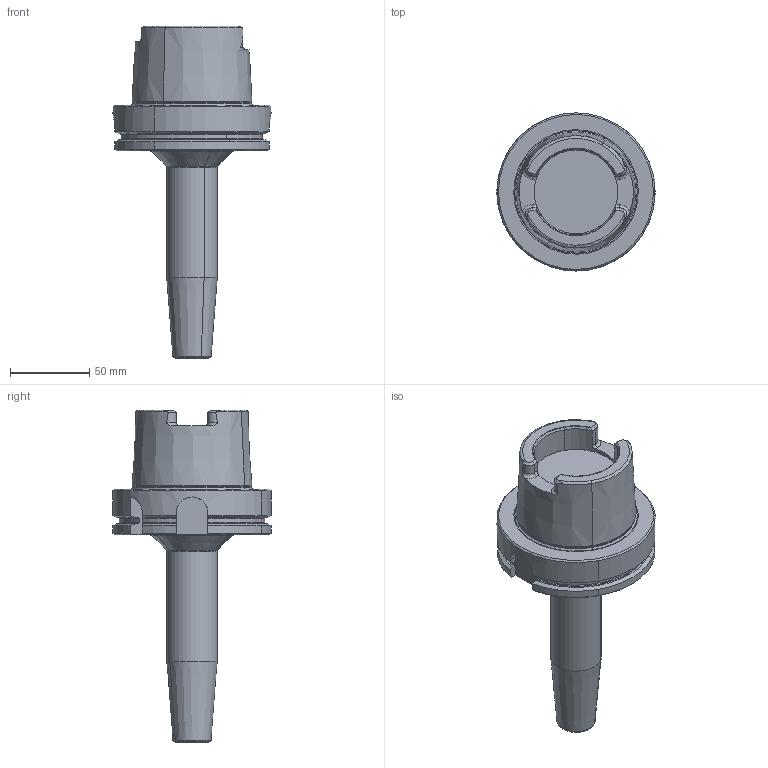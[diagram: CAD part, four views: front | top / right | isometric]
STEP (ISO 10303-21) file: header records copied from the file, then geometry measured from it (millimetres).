
FILE_DESCRIPTION(('CATIA V5 STEP','CAx-IF Rec.Pracs.--- Model Styling and Organization---1.2---2011-12-15'),'2;1');
FILE_NAME('\\nas01\drv1\utils\eitdev\rte\eit\transmagicconvert\db\out\4504232 L.stp','2014-04-03T07:19:58+00:00',('none'),('none'),'CATIA Version 5 Release 21 SP 5 (IN-10)','CATIA V5 STEP AP214','none');
FILE_SCHEMA(('AUTOMOTIVE_DESIGN { 1 0 10303 214 1 1 1 1 }'));
Length unit declared in the file: millimetre
Products named in the file (1): 60977819_0 Holder-Tool HSK A 100 SRKIN 12X160
Bounding box: 99.99 x 100 x 210 mm (x, y, z)
Volume: 486777.1 mm3; surface area: 50864 mm2
Topology: 1 solids, 1 shells, 139 faces, 354 edges, 220 vertices
Faces by surface type: cone 37, plane 37, cylinder 33, torus 32
Entity records: 4208 total; most frequent: CARTESIAN_POINT 1231, ORIENTED_EDGE 708, DIRECTION 445, EDGE_CURVE 354, AXIS2_PLACEMENT_3D 244, VERTEX_POINT 220, CIRCLE 161, EDGE_LOOP 142
